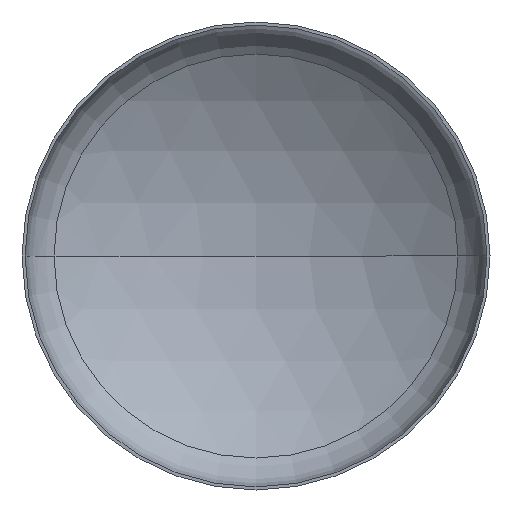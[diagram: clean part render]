
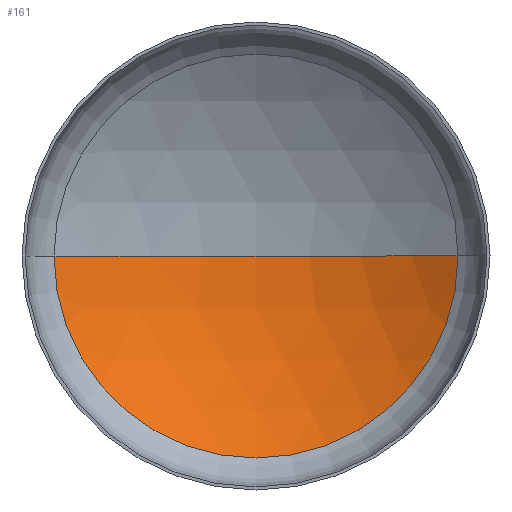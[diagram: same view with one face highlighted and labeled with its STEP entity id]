
A CAD part, front view. The second image highlights one B-rep face of the part: STEP entity #161.
In plain terms, the highlighted spherical face has radius 472 mm.
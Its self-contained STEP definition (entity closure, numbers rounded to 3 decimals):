
#1 = DIRECTION ( 'NONE',  ( 0., 0., 1. ) ) ;
#36 = EDGE_CURVE ( 'NONE', #116, #251, #46, .T. ) ;
#46 = CIRCLE ( 'NONE', #174, 472. ) ;
#62 = DIRECTION ( 'NONE',  ( -1., 0., 0. ) ) ;
#70 = FACE_OUTER_BOUND ( 'NONE', #94, .T. ) ;
#75 = CARTESIAN_POINT ( 'NONE',  ( 0., 146., 0. ) ) ;
#78 = SPHERICAL_SURFACE ( 'NONE', #224, 472. ) ;
#94 = EDGE_LOOP ( 'NONE', ( #119, #144, #249 ) ) ;
#95 = CARTESIAN_POINT ( 'NONE',  ( 0., 68.596, 0. ) ) ;
#100 = EDGE_CURVE ( 'NONE', #403, #116, #233, .T. ) ;
#115 = DIRECTION ( 'NONE',  ( 1., 0., 0. ) ) ;
#116 = VERTEX_POINT ( 'NONE', #317 ) ;
#119 = ORIENTED_EDGE ( 'NONE', *, *, #100, .F. ) ;
#144 = ORIENTED_EDGE ( 'NONE', *, *, #405, .T. ) ;
#161 = ADVANCED_FACE ( 'NONE', ( #70 ), #78, .F. ) ;
#174 = AXIS2_PLACEMENT_3D ( 'NONE', #411, #219, #62 ) ;
#189 = DIRECTION ( 'NONE',  ( 0., 1., 0. ) ) ;
#200 = DIRECTION ( 'NONE',  ( -1., 0., 0. ) ) ;
#206 = CARTESIAN_POINT ( 'NONE',  ( 258.995, 68.596, 0. ) ) ;
#219 = DIRECTION ( 'NONE',  ( 0., 0., -1. ) ) ;
#224 = AXIS2_PLACEMENT_3D ( 'NONE', #386, #1, #200 ) ;
#233 = CIRCLE ( 'NONE', #247, 258.995 ) ;
#247 = AXIS2_PLACEMENT_3D ( 'NONE', #95, #189, #315 ) ;
#249 = ORIENTED_EDGE ( 'NONE', *, *, #36, .F. ) ;
#251 = VERTEX_POINT ( 'NONE', #75 ) ;
#298 = DIRECTION ( 'NONE',  ( 0., 0., 1. ) ) ;
#315 = DIRECTION ( 'NONE',  ( -1., 0., 0. ) ) ;
#317 = CARTESIAN_POINT ( 'NONE',  ( -258.995, 68.596, 0. ) ) ;
#360 = AXIS2_PLACEMENT_3D ( 'NONE', #395, #298, #115 ) ;
#375 = CIRCLE ( 'NONE', #360, 472. ) ;
#386 = CARTESIAN_POINT ( 'NONE',  ( 0., -326., 0. ) ) ;
#395 = CARTESIAN_POINT ( 'NONE',  ( 0., -326., 0. ) ) ;
#403 = VERTEX_POINT ( 'NONE', #206 ) ;
#405 = EDGE_CURVE ( 'NONE', #403, #251, #375, .T. ) ;
#411 = CARTESIAN_POINT ( 'NONE',  ( 0., -326., 0. ) ) ;
